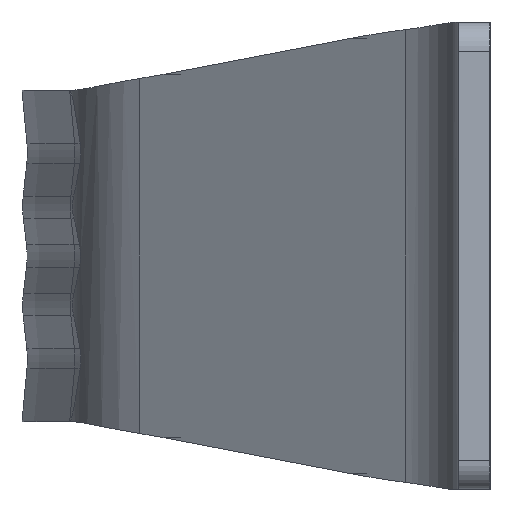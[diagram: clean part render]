
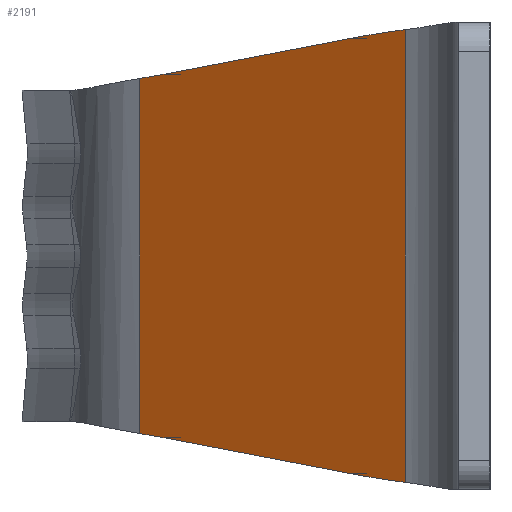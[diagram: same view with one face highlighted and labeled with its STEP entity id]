
A CAD part, left-side view. The second image highlights one B-rep face of the part: STEP entity #2191.
In plain terms, the highlighted planar face has unit normal (-0.841, 0.542, 0).
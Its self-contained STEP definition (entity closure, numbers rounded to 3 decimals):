
#117=ELLIPSE('',#2425,36.925,20.);
#118=ELLIPSE('',#2428,36.925,20.);
#119=ELLIPSE('',#2433,36.925,20.);
#120=ELLIPSE('',#2436,36.925,20.);
#216=PLANE('',#2435);
#333=FACE_OUTER_BOUND('',#483,.T.);
#483=EDGE_LOOP('',(#1897,#1898,#1899,#1900,#1901,#1902,#1903,#1904));
#612=LINE('',#4266,#736);
#615=LINE('',#4299,#739);
#617=LINE('',#4302,#741);
#618=LINE('',#4304,#742);
#736=VECTOR('',#3000,11.523);
#739=VECTOR('',#3019,11.523);
#741=VECTOR('',#3023,23.217);
#742=VECTOR('',#3024,18.203);
#1029=VERTEX_POINT('',#4251);
#1030=VERTEX_POINT('',#4253);
#1031=VERTEX_POINT('',#4264);
#1033=VERTEX_POINT('',#4270);
#1035=VERTEX_POINT('',#4285);
#1036=VERTEX_POINT('',#4294);
#1037=VERTEX_POINT('',#4298);
#1038=VERTEX_POINT('',#4303);
#1323=EDGE_CURVE('',#1029,#1030,#117,.T.);
#1326=EDGE_CURVE('',#1031,#1029,#612,.T.);
#1329=EDGE_CURVE('',#1031,#1033,#118,.F.);
#1333=EDGE_CURVE('',#1035,#1036,#119,.T.);
#1335=EDGE_CURVE('',#1036,#1037,#615,.T.);
#1337=EDGE_CURVE('',#1035,#1030,#617,.T.);
#1338=EDGE_CURVE('',#1038,#1033,#618,.T.);
#1339=EDGE_CURVE('',#1037,#1038,#120,.T.);
#1897=ORIENTED_EDGE('',*,*,#1333,.F.);
#1898=ORIENTED_EDGE('',*,*,#1337,.T.);
#1899=ORIENTED_EDGE('',*,*,#1323,.F.);
#1900=ORIENTED_EDGE('',*,*,#1326,.F.);
#1901=ORIENTED_EDGE('',*,*,#1329,.T.);
#1902=ORIENTED_EDGE('',*,*,#1338,.F.);
#1903=ORIENTED_EDGE('',*,*,#1339,.F.);
#1904=ORIENTED_EDGE('',*,*,#1335,.F.);
#2191=ADVANCED_FACE('',(#333),#216,.T.);
#2425=AXIS2_PLACEMENT_3D('',#4254,#2995,#2996);
#2428=AXIS2_PLACEMENT_3D('',#4279,#3004,#3005);
#2433=AXIS2_PLACEMENT_3D('',#4295,#3014,#3015);
#2435=AXIS2_PLACEMENT_3D('',#4301,#3021,#3022);
#2436=AXIS2_PLACEMENT_3D('',#4305,#3025,#3026);
#2995=DIRECTION('center_axis',(0.841,-0.542,0.));
#2996=DIRECTION('ref_axis',(0.542,0.841,0.));
#3000=DIRECTION('',(-0.535,-0.83,0.159));
#3004=DIRECTION('center_axis',(-0.841,0.542,0.));
#3005=DIRECTION('ref_axis',(-0.542,-0.841,0.));
#3014=DIRECTION('center_axis',(0.841,-0.542,0.));
#3015=DIRECTION('ref_axis',(0.542,0.841,0.));
#3019=DIRECTION('',(0.535,0.83,0.159));
#3021=DIRECTION('center_axis',(-0.841,0.542,0.));
#3022=DIRECTION('ref_axis',(-0.542,-0.841,0.));
#3023=DIRECTION('',(0.,0.,1.));
#3024=DIRECTION('',(0.,0.,1.));
#3025=DIRECTION('center_axis',(-0.841,0.542,0.));
#3026=DIRECTION('ref_axis',(-0.542,-0.841,0.));
#4251=CARTESIAN_POINT('',(-46.456,7.1,11.168));
#4253=CARTESIAN_POINT('',(-48.228,4.35,11.609));
#4254=CARTESIAN_POINT('Origin',(-52.165,-1.761,-8.));
#4264=CARTESIAN_POINT('',(-40.294,16.664,9.332));
#4266=CARTESIAN_POINT('',(-44.577,10.016,10.608));
#4270=CARTESIAN_POINT('',(-39.452,17.971,9.101));
#4279=CARTESIAN_POINT('Origin',(-34.585,25.525,28.5));
#4285=CARTESIAN_POINT('',(-48.228,4.35,-11.609));
#4294=CARTESIAN_POINT('',(-46.456,7.1,-11.168));
#4295=CARTESIAN_POINT('Origin',(-52.165,-1.761,8.));
#4298=CARTESIAN_POINT('',(-40.294,16.664,-9.332));
#4299=CARTESIAN_POINT('',(-42.749,12.854,-10.063));
#4301=CARTESIAN_POINT('Origin',(-39.452,17.971,0.));
#4302=CARTESIAN_POINT('',(-48.228,4.35,0.));
#4303=CARTESIAN_POINT('',(-39.452,17.971,-9.101));
#4304=CARTESIAN_POINT('',(-39.452,17.971,0.));
#4305=CARTESIAN_POINT('Origin',(-34.585,25.525,-28.5));
